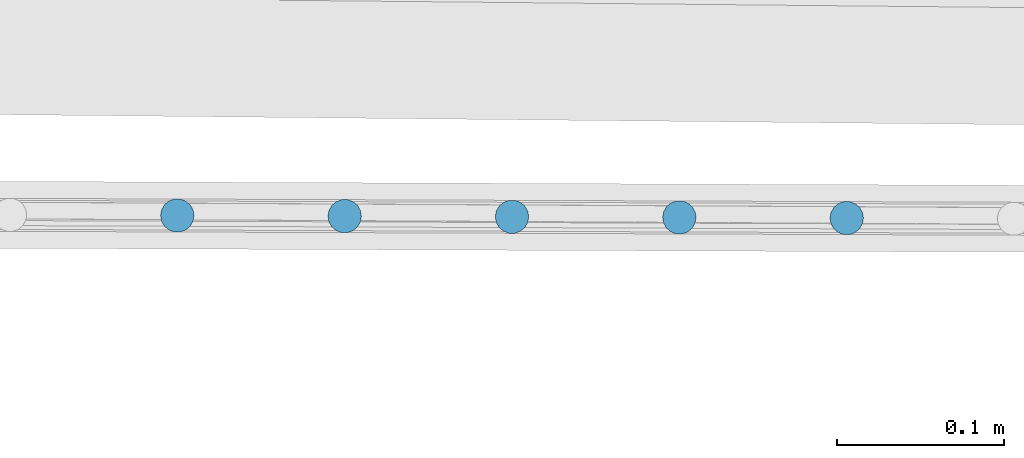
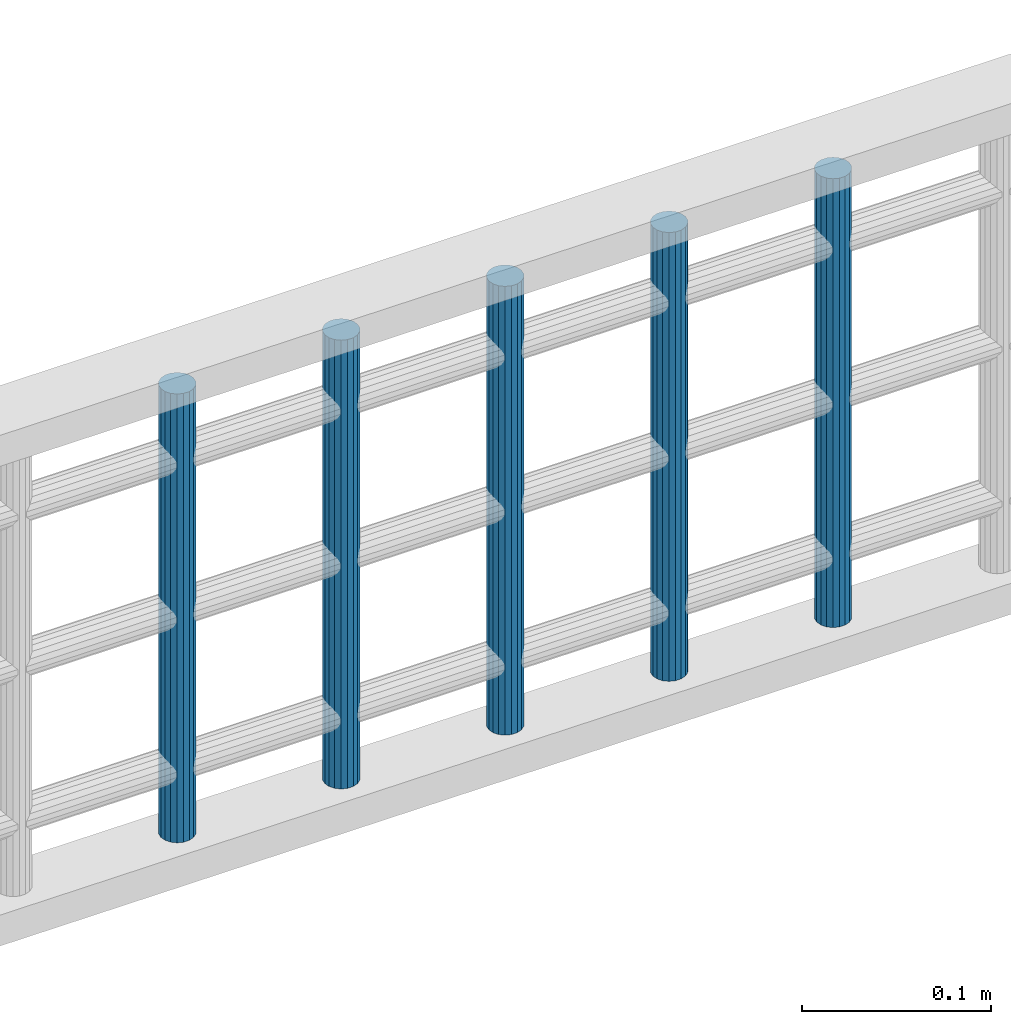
# One storey, part 19 of 39: 5 members, 1 element without a shape of its own.
"""IFC2X3 building model written with IfcOpenShell, lengths in centimetres."""

from ifc_helpers import new_model, entity, si_unit, converted_unit, direction, frame, origin, origin_with_axes, place, context, subcontext, project, spatial, faceted_brep, material, type_object, element, aggregate, save


model = new_model("IFC2X3")

# Units and contexts
model_context = context("Model", 3, precision=0.0001, world=origin(), true_north=direction((0.225632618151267, 0.974212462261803, 0.0)))
body_context = subcontext(model_context, "Body", "Model", "MODEL_VIEW")
ifc_project = project(units=[si_unit("LENGTHUNIT", "METRE", prefix="CENTI"), si_unit("AREAUNIT", "SQUARE_METRE", prefix="CENTI"), si_unit("VOLUMEUNIT", "CUBIC_METRE", prefix="CENTI"), converted_unit("PLANEANGLEUNIT", "DEGREE", entity("IfcRatioMeasure", 0.0174532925), si_unit("PLANEANGLEUNIT", "RADIAN"), dimensions=[0, 0, 0, 0, 0, 0, 0])], contexts=[model_context])

# Site, building, storey
site_placement = place(None, origin_with_axes())
site = spatial("IfcSite", under=ifc_project, at=site_placement, Name="Default Site", CompositionType="ELEMENT")
building_placement = place(site_placement, origin_with_axes())
building = spatial("IfcBuilding", under=site, at=building_placement, Name="Default Building", CompositionType="ELEMENT")
storey_placement = place(building_placement, frame((0.0, 0.0, 1088.91037418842), z_axis=(0.0, 0.0, 1.0), x_axis=(1.0, 0.0, 0.0)))
storey = spatial("IfcBuildingStorey", under=building, at=storey_placement, Name="Mezzanine", CompositionType="ELEMENT", Elevation=1088.91037418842)

# Assembly, members
building_element_proxy_type = type_object("IfcBuildingElementProxyType", Name="Type Object", PredefinedType="NOTDEFINED")
assembly_placement = place(storey_placement, frame((1135.88365779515, -230.612962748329, -220.0), z_axis=(0.0, 0.0, 1.0), x_axis=(0.999992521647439, -0.00386738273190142, 0.0)))
assembly = element("IfcElementAssembly", 1, at=assembly_placement, inside=storey, type_object=building_element_proxy_type, Name="Panneau 1519653", ObjectType="Precast panel", PredefinedType="USERDEFINED")
ifc_material = material(Name="Blanc trafic")
member_1_placement = place(assembly_placement, frame((88.439691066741, 0.342020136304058, 31.0000002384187), z_axis=(0.0, 0.0, 0.999999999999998), x_axis=(0.499995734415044, -0.866027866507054, 0.0)))
member_1 = element("IfcMember", 2, at=member_1_placement, material=ifc_material, Name="4294967240", context=body_context, shape_type="Brep", body=[
    faceted_brep([(4.44089209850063e-14, 9.99200722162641e-14, 1.83186799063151e-13), (-0.347295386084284, 1.4432899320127e-13, 1.83186799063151e-13), (-0.673647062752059, -0.11878472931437, 1.83186799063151e-13), (-0.939691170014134, -0.342025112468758, 1.83186799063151e-13), (-1.11333590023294, -0.642790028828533, 1.83186799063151e-13), (-1.17364232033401, -0.984811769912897, 1.83186799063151e-13), (-1.11333370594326, -1.3268323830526, 1.83186799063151e-13), (-0.939683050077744, -1.62759729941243, 1.83186799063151e-13), (-0.673637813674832, -1.85083429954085, 1.83186799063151e-13), (-0.347285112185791, -1.96961451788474, 1.83186799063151e-13), (1.02738985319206e-05, -1.9696145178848, 1.83186799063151e-13), (0.326361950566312, -1.85082978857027, 1.83186799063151e-13), (0.592406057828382, -1.62758940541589, 1.83186799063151e-13), (0.76605078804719, -1.32682448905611, 1.83186799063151e-13), (0.826357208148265, -0.984802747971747, 1.83186799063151e-13), (0.766048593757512, -0.642782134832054, 1.83186799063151e-13), (0.592397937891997, -0.342017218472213, 1.83186799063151e-13), (0.32635270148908, -0.118780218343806, 1.83186799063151e-13), (0.32635270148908, -0.118780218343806, -29.0000002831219), (0.592397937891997, -0.342017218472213, -29.0000002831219), (0.766048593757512, -0.642782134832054, -29.0000002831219), (0.826357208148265, -0.984802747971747, -29.0000002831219), (0.76605078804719, -1.32682448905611, -29.0000002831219), (0.592406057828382, -1.62758940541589, -29.0000002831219), (0.326361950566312, -1.85082978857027, -29.0000002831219), (1.02738985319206e-05, -1.9696145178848, -29.0000002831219), (-0.347285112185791, -1.96961451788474, -29.0000002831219), (-0.673637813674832, -1.85083429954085, -29.0000002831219), (-0.939683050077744, -1.62759729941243, -29.0000002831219), (-1.11333370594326, -1.3268323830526, -29.0000002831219), (-1.17364232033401, -0.984811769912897, -29.0000002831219), (-1.11333590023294, -0.642790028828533, -29.0000002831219), (-0.939691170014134, -0.342025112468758, -29.0000002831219), (-0.673647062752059, -0.11878472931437, -29.0000002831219), (-0.347295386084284, 1.4432899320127e-13, -29.0000002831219), (4.44089209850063e-14, 9.99200722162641e-14, -29.0000002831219), (0.592398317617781, -0.342016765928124, 1.83186799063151e-13), (0.592398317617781, -0.342016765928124, -29.0000002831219), (0.766047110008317, -0.64278299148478, 1.83186799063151e-13), (0.766047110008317, -0.64278299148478, -29.0000002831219), (0.826357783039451, -0.984802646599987, 1.83186799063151e-13), (0.826357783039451, -0.984802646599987, -29.0000002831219), (0.76605127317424, -1.32682457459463, 1.83186799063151e-13), (0.76605127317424, -1.32682457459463, -29.0000002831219), (0.592406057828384, -1.62758940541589, 1.83186799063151e-13), (0.592406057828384, -1.62758940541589, -29.0000002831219), (0.326361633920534, -1.8508294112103, 1.83186799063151e-13), (0.326361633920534, -1.8508294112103, -29.0000002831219), (1.00742380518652e-05, -1.96961396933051, 1.83186799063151e-13), (1.00742380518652e-05, -1.96961396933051, -29.0000002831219), (-0.347285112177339, -1.96961623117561, 1.83186799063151e-13), (-0.347285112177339, -1.96961623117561, -29.0000002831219), (-0.673637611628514, -1.85083374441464, 1.83186799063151e-13), (-0.673637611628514, -1.85083374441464, -29.0000002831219), (-0.939683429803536, -1.62759775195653, 1.83186799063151e-13), (-0.939683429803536, -1.62759775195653, -29.0000002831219), (-1.11333222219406, -1.32683152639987, 1.83186799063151e-13), (-1.11333222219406, -1.32683152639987, -29.0000002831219), (-1.1736428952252, -0.984811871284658, 1.83186799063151e-13), (-1.1736428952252, -0.984811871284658, -29.0000002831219), (-1.11333638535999, -0.642789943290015, 1.83186799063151e-13), (-1.11333638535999, -0.642789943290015, -29.0000002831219), (-0.939691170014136, -0.342025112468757, 1.83186799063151e-13), (-0.939691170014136, -0.342025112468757, -29.0000002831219), (-0.673646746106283, -0.118785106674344, 1.83186799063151e-13), (-0.673646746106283, -0.118785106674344, -29.0000002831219), (-0.347295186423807, -5.48554140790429e-07, 1.83186799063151e-13), (-0.347295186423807, -5.48554140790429e-07, -29.0000002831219), (-8.40766274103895e-12, 1.7132909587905e-06, 1.83186799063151e-13), (-8.40766274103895e-12, 1.7132909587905e-06, -29.0000002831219), (0.326352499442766, -0.118780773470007, 1.83186799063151e-13), (0.326352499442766, -0.118780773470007, -29.0000002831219)], [[[0, 1, 2, 3, 4, 5, 6, 7, 8, 9, 10, 11, 12, 13, 14, 15, 16, 17]], [[18, 19, 20, 21, 22, 23, 24, 25, 26, 27, 28, 29, 30, 31, 32, 33, 34, 35]], [[17, 36, 37, 18]], [[16, 38, 39, 19]], [[15, 40, 41, 20]], [[14, 42, 43, 21]], [[13, 44, 45, 22]], [[12, 46, 47, 23]], [[11, 48, 49, 24]], [[10, 50, 51, 25]], [[9, 52, 53, 26]], [[8, 54, 55, 27]], [[7, 56, 57, 28]], [[6, 58, 59, 29]], [[5, 60, 61, 30]], [[4, 62, 63, 31]], [[3, 64, 65, 32]], [[2, 66, 67, 33]], [[1, 68, 69, 34]], [[0, 70, 71, 35]]]),
])
member_2_placement = place(assembly_placement, frame((98.4396934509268, 0.342020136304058, 31.0000002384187), z_axis=(0.0, 0.0, 0.999999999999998), x_axis=(0.499995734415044, -0.866027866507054, 0.0)))
member_2 = element("IfcMember", 3, at=member_2_placement, material=ifc_material, Name="4294967239", context=body_context, shape_type="Brep", body=[
    faceted_brep([(-3.33066907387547e-14, -1.33226762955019e-13, 1.83186799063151e-13), (-0.347295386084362, -7.7715611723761e-14, 1.83186799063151e-13), (-0.673647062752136, -0.118784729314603, 1.83186799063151e-13), (-0.939691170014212, -0.34202511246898, 1.83186799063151e-13), (-1.11333888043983, -0.642795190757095, 1.83186799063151e-13), (-1.1736423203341, -0.984811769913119, 1.83186799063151e-13), (-1.11333370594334, -1.32683238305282, 1.83186799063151e-13), (-0.939686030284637, -1.62760246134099, 1.83186799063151e-13), (-0.673640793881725, -1.85083946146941, 1.83186799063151e-13), (-0.347288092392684, -1.96961967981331, 1.83186799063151e-13), (1.0273898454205e-05, -1.96961451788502, 1.83186799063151e-13), (0.326361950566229, -1.8508297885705, 1.83186799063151e-13), (0.592403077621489, -1.62759456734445, 1.83186799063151e-13), (0.766050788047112, -1.32682448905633, 1.83186799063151e-13), (0.826357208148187, -0.98480274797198, 1.83186799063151e-13), (0.766048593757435, -0.642782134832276, 1.83186799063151e-13), (0.59239793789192, -0.342017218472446, 1.83186799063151e-13), (0.326352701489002, -0.118780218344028, 1.83186799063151e-13), (0.326352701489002, -0.118780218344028, -29.0000002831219), (0.59239793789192, -0.342017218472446, -29.0000002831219), (0.766048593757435, -0.642782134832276, -29.0000002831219), (0.826357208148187, -0.98480274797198, -29.0000002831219), (0.766050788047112, -1.32682448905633, -29.0000002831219), (0.592403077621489, -1.62759456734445, -29.0000002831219), (0.326361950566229, -1.8508297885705, -29.0000002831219), (1.0273898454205e-05, -1.96961451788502, -29.0000002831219), (-0.347288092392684, -1.96961967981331, -29.0000002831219), (-0.673640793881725, -1.85083946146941, -29.0000002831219), (-0.939686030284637, -1.62760246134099, -29.0000002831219), (-1.11333370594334, -1.32683238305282, -29.0000002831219), (-1.1736423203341, -0.984811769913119, -29.0000002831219), (-1.11333888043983, -0.642795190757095, -29.0000002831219), (-0.939691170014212, -0.34202511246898, -29.0000002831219), (-0.673647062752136, -0.118784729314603, -29.0000002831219), (-0.347295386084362, -7.7715611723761e-14, -29.0000002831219), (-3.33066907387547e-14, -1.33226762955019e-13, -29.0000002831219), (0.592398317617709, -0.34201676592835, 1.83186799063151e-13), (0.592398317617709, -0.34201676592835, -29.0000002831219), (0.766047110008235, -0.642782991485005, 1.83186799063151e-13), (0.766047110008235, -0.642782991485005, -29.0000002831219), (0.826357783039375, -0.984802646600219, 1.83186799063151e-13), (0.826357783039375, -0.984802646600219, -29.0000002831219), (0.766051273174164, -1.32682457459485, 1.83186799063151e-13), (0.766051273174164, -1.32682457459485, -29.0000002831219), (0.59240307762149, -1.62759456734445, 1.83186799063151e-13), (0.59240307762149, -1.62759456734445, -29.0000002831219), (0.326362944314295, -1.85083097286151, 1.83186799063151e-13), (0.326362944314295, -1.85083097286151, -29.0000002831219), (1.00742379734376e-05, -1.96961396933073, 1.83186799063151e-13), (1.00742379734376e-05, -1.96961396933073, -29.0000002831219), (-0.347288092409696, -1.96961623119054, 1.83186799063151e-13), (-0.347288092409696, -1.96961623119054, -29.0000002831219), (-0.673640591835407, -1.8508389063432, 1.83186799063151e-13), (-0.673640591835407, -1.8508389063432, -29.0000002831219), (-0.939686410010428, -1.62760291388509, 1.83186799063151e-13), (-0.939686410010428, -1.62760291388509, -29.0000002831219), (-1.11333669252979, -1.32683410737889, 1.83186799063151e-13), (-1.11333669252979, -1.32683410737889, -29.0000002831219), (-1.17364289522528, -0.984811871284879, 1.83186799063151e-13), (-1.17364289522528, -0.984811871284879, -29.0000002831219), (-1.11333735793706, -0.642795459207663, 1.83186799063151e-13), (-1.11333735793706, -0.642795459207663, -29.0000002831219), (-0.673646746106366, -0.118785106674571, 1.83186799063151e-13), (-0.673646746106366, -0.118785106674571, -29.0000002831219), (-0.347295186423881, -5.48554372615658e-07, 1.83186799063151e-13), (-0.347295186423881, -5.48554372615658e-07, -29.0000002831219), (-8.48537840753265e-12, 1.7132907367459e-06, 1.83186799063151e-13), (-8.48537840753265e-12, 1.7132907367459e-06, -29.0000002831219), (0.326352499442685, -0.118780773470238, 1.83186799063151e-13), (0.326352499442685, -0.118780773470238, -29.0000002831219)], [[[0, 1, 2, 3, 4, 5, 6, 7, 8, 9, 10, 11, 12, 13, 14, 15, 16, 17]], [[18, 19, 20, 21, 22, 23, 24, 25, 26, 27, 28, 29, 30, 31, 32, 33, 34, 35]], [[17, 36, 37, 18]], [[16, 38, 39, 19]], [[15, 40, 41, 20]], [[14, 42, 43, 21]], [[13, 44, 45, 22]], [[12, 46, 47, 23]], [[11, 48, 49, 24]], [[10, 50, 51, 25]], [[9, 52, 53, 26]], [[8, 54, 55, 27]], [[7, 56, 57, 28]], [[6, 58, 59, 29]], [[5, 60, 61, 30]], [[4, 3, 32, 31]], [[3, 62, 63, 32]], [[2, 64, 65, 33]], [[1, 66, 67, 34]], [[0, 68, 69, 35]]]),
])
member_3_placement = place(assembly_placement, frame((108.439695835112, 0.342020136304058, 31.0000002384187), z_axis=(0.0, 0.0, 0.999999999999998), x_axis=(0.500008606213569, -0.8660204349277, 0.0)))
member_3 = element("IfcMember", 4, at=member_3_placement, material=ifc_material, Name="4294967238", context=body_context, shape_type="Brep", body=[
    faceted_brep([(6.66133814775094e-14, 0.0, 5.55111512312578e-15), (-0.34729836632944, 5.55111512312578e-14, 5.55111512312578e-15), (-0.673648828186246, -0.118774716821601, 5.55111512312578e-15), (-0.939699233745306, -0.342016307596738, 5.55111512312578e-15), (-1.11334843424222, -0.64277864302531, 5.55111512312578e-15), (-1.17365695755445, -0.984794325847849, 5.55111512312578e-15), (-1.11335640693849, -1.32682099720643, 5.55111512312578e-15), (-0.939713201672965, -1.62759365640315, 5.55111512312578e-15), (-0.673665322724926, -1.85082428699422, 5.55111512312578e-15), (-0.347320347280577, -1.96961967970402, 5.55111512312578e-15), (-2.19809510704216e-05, -1.96961967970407, 5.55111512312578e-15), (0.326334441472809, -1.85083463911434, 5.55111512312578e-15), (0.592378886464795, -1.62760337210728, 5.55111512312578e-15), (0.766028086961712, -1.32684103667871, 5.55111512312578e-15), (0.82634257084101, -0.984815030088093, 5.55111512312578e-15), (0.766036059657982, -0.642798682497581, 5.55111512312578e-15), (0.592392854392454, -0.342026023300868, 5.55111512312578e-15), (0.326350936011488, -0.118785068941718, 5.55111512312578e-15), (0.326350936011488, -0.118785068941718, -29.0000002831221), (0.592392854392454, -0.342026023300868, -29.0000002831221), (0.766036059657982, -0.642798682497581, -29.0000002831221), (0.82634257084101, -0.984815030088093, -29.0000002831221), (0.766028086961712, -1.32684103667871, -29.0000002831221), (0.592378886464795, -1.62760337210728, -29.0000002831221), (0.326334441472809, -1.85083463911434, -29.0000002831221), (-2.19809510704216e-05, -1.96961967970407, -29.0000002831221), (-0.347320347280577, -1.96961967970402, -29.0000002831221), (-0.673665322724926, -1.85082428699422, -29.0000002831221), (-0.939713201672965, -1.62759365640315, -29.0000002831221), (-1.11335640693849, -1.32682099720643, -29.0000002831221), (-1.17365695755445, -0.984794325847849, -29.0000002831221), (-1.11334843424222, -0.64277864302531, -29.0000002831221), (-0.939699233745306, -0.342016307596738, -29.0000002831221), (-0.673648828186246, -0.118774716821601, -29.0000002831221), (-0.34729836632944, 5.55111512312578e-14, -29.0000002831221), (6.66133814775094e-14, 0.0, -29.0000002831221), (0.592393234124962, -0.342025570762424, 5.55111512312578e-15), (0.592393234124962, -0.342025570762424, -29.0000002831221), (0.766039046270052, -0.642796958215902, 5.55111512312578e-15), (0.766039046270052, -0.642796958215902, -29.0000002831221), (0.826339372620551, -0.984815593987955, 5.55111512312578e-15), (0.826339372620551, -0.984815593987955, -29.0000002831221), (0.766030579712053, -1.32684147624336, 5.55111512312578e-15), (0.766030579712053, -1.32684147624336, -29.0000002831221), (0.592378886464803, -1.62760337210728, 5.55111512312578e-15), (0.592378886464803, -1.62760337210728, -29.0000002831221), (0.326335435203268, -1.85083582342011, 5.55111512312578e-15), (0.326335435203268, -1.85083582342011, -29.0000002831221), (-2.34909536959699e-05, -1.96961553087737, 5.55111512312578e-15), (-2.34909536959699e-05, -1.96961553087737, -29.0000002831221), (-0.347320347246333, -1.96961623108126, 5.55111512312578e-15), (-0.347320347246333, -1.96961623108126, -29.0000002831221), (-0.673669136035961, -1.8508347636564, 5.55111512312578e-15), (-0.673669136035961, -1.8508347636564, -29.0000002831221), (-0.939706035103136, -1.62758511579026, 5.55111512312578e-15), (-0.939706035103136, -1.62758511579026, -29.0000002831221), (-1.11335939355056, -1.32682272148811, 5.55111512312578e-15), (-1.11335939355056, -1.32682272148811, -29.0000002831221), (-1.17366130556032, -0.984795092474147, 5.55111512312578e-15), (-1.17366130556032, -0.984795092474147, -29.0000002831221), (-1.11334691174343, -0.642778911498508, 5.55111512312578e-15), (-1.11334691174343, -0.642778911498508, -29.0000002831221), (-0.939699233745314, -0.342016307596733, 5.55111512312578e-15), (-0.939699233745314, -0.342016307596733, -29.0000002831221), (-0.673647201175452, -0.118776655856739, 5.55111512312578e-15), (-0.673647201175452, -0.118776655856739, -29.0000002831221), (-0.34729947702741, 3.05171222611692e-06, 5.55111512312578e-15), (-0.34729947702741, 3.05171222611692e-06, -29.0000002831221), (-3.41777144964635e-11, -3.44862275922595e-06, 5.55111512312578e-15), (-3.41777144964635e-11, -3.44862275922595e-06, -29.0000002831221), (0.326350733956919, -0.118785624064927, 5.55111512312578e-15), (0.326350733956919, -0.118785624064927, -29.0000002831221)], [[[0, 1, 2, 3, 4, 5, 6, 7, 8, 9, 10, 11, 12, 13, 14, 15, 16, 17]], [[18, 19, 20, 21, 22, 23, 24, 25, 26, 27, 28, 29, 30, 31, 32, 33, 34, 35]], [[17, 36, 37, 18]], [[16, 38, 39, 19]], [[15, 40, 41, 20]], [[14, 42, 43, 21]], [[13, 44, 45, 22]], [[12, 46, 47, 23]], [[11, 48, 49, 24]], [[10, 50, 51, 25]], [[9, 52, 53, 26]], [[8, 54, 55, 27]], [[7, 56, 57, 28]], [[6, 58, 59, 29]], [[5, 60, 61, 30]], [[4, 62, 63, 31]], [[3, 64, 65, 32]], [[2, 66, 67, 33]], [[1, 68, 69, 34]], [[0, 70, 71, 35]]]),
])
member_4_placement = place(assembly_placement, frame((118.439698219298, 0.342020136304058, 31.0000002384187), z_axis=(0.0, 0.0, 0.999999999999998), x_axis=(0.500008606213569, -0.8660204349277, 0.0)))
member_4 = element("IfcMember", 5, at=member_4_placement, material=ifc_material, Name="4294967237", context=body_context, shape_type="Brep", body=[
    faceted_brep([(1.33226762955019e-13, 1.55431223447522e-13, 5.55111512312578e-15), (-0.347298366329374, 1.99840144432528e-13, 5.55111512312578e-15), (-0.673654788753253, -0.118785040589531, 5.55111512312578e-15), (-0.93969923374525, -0.342016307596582, 5.55111512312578e-15), (-1.11334843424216, -0.642778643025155, 5.55111512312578e-15), (-1.17366291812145, -0.984804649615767, 5.55111512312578e-15), (-1.11335640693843, -1.32682099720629, 5.55111512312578e-15), (-0.939713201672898, -1.62759365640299, 5.55111512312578e-15), (-0.673671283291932, -1.85083461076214, 5.55111512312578e-15), (-0.347320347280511, -1.96961967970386, 5.55111512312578e-15), (-2.19809510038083e-05, -1.96961967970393, 5.55111512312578e-15), (0.326328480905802, -1.85084496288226, 5.55111512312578e-15), (0.592378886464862, -1.62760337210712, 5.55111512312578e-15), (0.766028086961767, -1.32684103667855, 5.55111512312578e-15), (0.826336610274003, -0.984825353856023, 5.55111512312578e-15), (0.766036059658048, -0.642798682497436, 5.55111512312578e-15), (0.592392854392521, -0.342026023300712, 5.55111512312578e-15), (0.326344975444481, -0.118795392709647, 5.55111512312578e-15), (0.326344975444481, -0.118795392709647, -29.0000002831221), (0.592392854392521, -0.342026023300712, -29.0000002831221), (0.766036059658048, -0.642798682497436, -29.0000002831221), (0.826336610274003, -0.984825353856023, -29.0000002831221), (0.766028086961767, -1.32684103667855, -29.0000002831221), (0.592378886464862, -1.62760337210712, -29.0000002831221), (0.326328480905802, -1.85084496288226, -29.0000002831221), (-2.19809510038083e-05, -1.96961967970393, -29.0000002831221), (-0.347320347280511, -1.96961967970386, -29.0000002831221), (-0.673671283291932, -1.85083461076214, -29.0000002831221), (-0.939713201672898, -1.62759365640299, -29.0000002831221), (-1.11335640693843, -1.32682099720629, -29.0000002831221), (-1.17366291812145, -0.984804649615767, -29.0000002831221), (-1.11334843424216, -0.642778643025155, -29.0000002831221), (-0.93969923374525, -0.342016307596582, -29.0000002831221), (-0.673654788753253, -0.118785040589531, -29.0000002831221), (-0.347298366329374, 1.99840144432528e-13, -29.0000002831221), (1.33226762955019e-13, 1.55431223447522e-13, -29.0000002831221), (0.592385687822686, -0.342034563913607, 5.55111512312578e-15), (0.592385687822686, -0.342034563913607, -29.0000002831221), (0.766039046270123, -0.642796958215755, 5.55111512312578e-15), (0.766039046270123, -0.642796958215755, -29.0000002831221), (0.826340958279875, -0.984824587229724, 5.55111512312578e-15), (0.826340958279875, -0.984824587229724, -29.0000002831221), (0.766026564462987, -1.32684076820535, 5.55111512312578e-15), (0.766026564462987, -1.32684076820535, -29.0000002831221), (0.592378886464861, -1.62760337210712, 5.55111512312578e-15), (0.592378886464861, -1.62760337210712, -29.0000002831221), (0.326326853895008, -1.85084302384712, 5.55111512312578e-15), (0.326326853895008, -1.85084302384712, -29.0000002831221), (-2.08702530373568e-05, -1.96962273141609, 5.55111512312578e-15), (-2.08702530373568e-05, -1.96962273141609, -29.0000002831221), (-0.347320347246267, -1.96961623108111, 5.55111512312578e-15), (-0.347320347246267, -1.96961623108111, -29.0000002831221), (-0.673671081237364, -1.85083405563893, 5.55111512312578e-15), (-0.673671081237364, -1.85083405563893, -29.0000002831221), (-0.939713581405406, -1.62759410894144, 5.55111512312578e-15), (-0.939713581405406, -1.62759410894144, -29.0000002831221), (-1.11335939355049, -1.32682272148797, 5.55111512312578e-15), (-1.11335939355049, -1.32682272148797, -29.0000002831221), (-1.173659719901, -0.984804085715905, 5.55111512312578e-15), (-1.173659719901, -0.984804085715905, -29.0000002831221), (-1.1133509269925, -0.642778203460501, 5.55111512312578e-15), (-1.1133509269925, -0.642778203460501, -29.0000002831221), (-0.673655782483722, -0.118783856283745, 5.55111512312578e-15), (-0.673655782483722, -0.118783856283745, -29.0000002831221), (-0.347296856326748, -4.14882649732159e-06, 5.55111512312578e-15), (-0.347296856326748, -4.14882649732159e-06, -29.0000002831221), (-3.41111012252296e-11, -3.44862261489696e-06, 5.55111512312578e-15), (-3.41111012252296e-11, -3.44862261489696e-06, -29.0000002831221), (0.32634878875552, -0.118784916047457, 5.55111512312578e-15), (0.32634878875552, -0.118784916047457, -29.0000002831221)], [[[0, 1, 2, 3, 4, 5, 6, 7, 8, 9, 10, 11, 12, 13, 14, 15, 16, 17]], [[18, 19, 20, 21, 22, 23, 24, 25, 26, 27, 28, 29, 30, 31, 32, 33, 34, 35]], [[17, 36, 37, 18]], [[16, 38, 39, 19]], [[15, 40, 41, 20]], [[14, 42, 43, 21]], [[13, 44, 45, 22]], [[12, 46, 47, 23]], [[11, 48, 49, 24]], [[10, 50, 51, 25]], [[9, 52, 53, 26]], [[8, 54, 55, 27]], [[7, 56, 57, 28]], [[6, 58, 59, 29]], [[5, 60, 61, 30]], [[4, 3, 32, 31]], [[3, 62, 63, 32]], [[2, 64, 65, 33]], [[1, 66, 67, 34]], [[0, 68, 69, 35]]]),
])
member_5_placement = place(assembly_placement, frame((128.439688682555, 0.342020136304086, 31.0000002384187), z_axis=(0.0, 0.0, 0.999999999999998), x_axis=(0.499982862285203, -0.8660352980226, 0.0)))
member_5 = element("IfcMember", 6, at=member_5_placement, material=ifc_material, Name="4294967236", context=body_context, shape_type="Brep", body=[
    faceted_brep([(1.22124532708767e-13, 1.55431223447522e-13, -5.55111512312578e-15), (-0.347292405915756, 2.44249065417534e-13, -5.55111512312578e-15), (-0.673645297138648, -0.118794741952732, -5.55111512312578e-15), (-0.939683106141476, -0.342033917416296, -5.55111512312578e-15), (-1.11332336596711, -0.642801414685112, -5.55111512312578e-15), (-1.17362768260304, -0.984829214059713, -5.55111512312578e-15), (-1.11331100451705, -1.32684376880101, -5.55111512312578e-15), (-0.939658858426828, -1.62761126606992, -5.55111512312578e-15), (-0.673610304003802, -1.85084431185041, -5.55111512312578e-15), (-0.347255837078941, -1.96961967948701, -5.55111512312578e-15), (4.25290971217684e-05, -1.96960935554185, -5.55111512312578e-15), (0.326389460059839, -1.85082493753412, -5.55111512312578e-15), (0.592433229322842, -1.62757543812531, -5.55111512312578e-15), (0.766073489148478, -1.32680794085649, -5.55111512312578e-15), (0.826371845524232, -0.984790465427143, -5.55111512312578e-15), (0.766061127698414, -0.64276558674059, -5.55111512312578e-15), (0.592403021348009, -0.342008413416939, -5.55111512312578e-15), (0.326354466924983, -0.118775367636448, -5.55111512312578e-15), (0.326354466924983, -0.118775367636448, -29.0000002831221), (0.592403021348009, -0.342008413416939, -29.0000002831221), (0.766061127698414, -0.64276558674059, -29.0000002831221), (0.826371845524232, -0.984790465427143, -29.0000002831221), (0.766073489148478, -1.32680794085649, -29.0000002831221), (0.592433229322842, -1.62757543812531, -29.0000002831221), (0.326389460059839, -1.85082493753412, -29.0000002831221), (4.25290971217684e-05, -1.96960935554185, -29.0000002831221), (-0.347255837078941, -1.96961967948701, -29.0000002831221), (-0.673610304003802, -1.85084431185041, -29.0000002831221), (-0.939658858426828, -1.62761126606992, -29.0000002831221), (-1.11331100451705, -1.32684376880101, -29.0000002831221), (-1.17362768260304, -0.984829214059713, -29.0000002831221), (-1.11332336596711, -0.642801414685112, -29.0000002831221), (-0.939683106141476, -0.342033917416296, -29.0000002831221), (-0.673645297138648, -0.118794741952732, -29.0000002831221), (-0.347292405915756, 2.44249065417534e-13, -29.0000002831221), (1.22124532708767e-13, 1.55431223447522e-13, -29.0000002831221), (0.592403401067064, -0.342007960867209, -5.55111512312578e-15), (0.592403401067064, -0.342007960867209, -29.0000002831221), (0.766055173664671, -0.642769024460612, -5.55111512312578e-15), (0.766055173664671, -0.642769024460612, -29.0000002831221), (0.826376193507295, -0.984789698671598, -5.55111512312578e-15), (0.826376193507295, -0.984789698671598, -29.0000002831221), (0.766071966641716, -1.32680767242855, -5.55111512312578e-15), (0.766071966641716, -1.32680767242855, -29.0000002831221), (0.592433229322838, -1.6275754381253, -5.55111512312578e-15), (0.592433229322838, -1.6275754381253, -29.0000002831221), (0.326387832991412, -1.85082299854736, -5.55111512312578e-15), (0.326387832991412, -1.85082299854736, -29.0000002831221), (4.363988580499e-05, -1.96961240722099, -5.55111512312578e-15), (4.363988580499e-05, -1.96961240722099, -29.0000002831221), (-0.347255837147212, -1.96961623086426, -5.55111512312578e-15), (-0.347255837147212, -1.96961623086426, -29.0000002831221), (-0.673610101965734, -1.85084375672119, -5.55111512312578e-15), (-0.673610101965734, -1.85084375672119, -29.0000002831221), (-0.939659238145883, -1.62761171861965, -5.55111512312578e-15), (-0.939659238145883, -1.62761171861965, -29.0000002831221), (-1.11331399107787, -1.32684549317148, -5.55111512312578e-15), (-1.11331399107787, -1.32684549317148, -29.0000002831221), (-1.17362448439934, -0.984828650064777, -5.55111512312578e-15), (-1.17362448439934, -0.984828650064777, -29.0000002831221), (-1.11332585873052, -0.642800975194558, -5.55111512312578e-15), (-1.11332585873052, -0.642800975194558, -29.0000002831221), (-0.939683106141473, -0.342033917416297, -5.55111512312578e-15), (-0.939683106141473, -0.342033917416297, -29.0000002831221), (-0.67364629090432, -0.118793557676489, -5.55111512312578e-15), (-0.67364629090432, -0.118793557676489, -29.0000002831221), (-0.347290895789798, -4.14878157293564e-06, -5.55111512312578e-15), (-0.347290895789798, -4.14878157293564e-06, -29.0000002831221), (-1.35983461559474e-10, 6.87520466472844e-06, -5.55111512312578e-15), (-1.35983461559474e-10, 6.87520466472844e-06, -29.0000002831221), (0.326354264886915, -0.118775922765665, -5.55111512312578e-15), (0.326354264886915, -0.118775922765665, -29.0000002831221)], [[[0, 1, 2, 3, 4, 5, 6, 7, 8, 9, 10, 11, 12, 13, 14, 15, 16, 17]], [[18, 19, 20, 21, 22, 23, 24, 25, 26, 27, 28, 29, 30, 31, 32, 33, 34, 35]], [[17, 36, 37, 18]], [[16, 38, 39, 19]], [[15, 40, 41, 20]], [[14, 42, 43, 21]], [[13, 44, 45, 22]], [[12, 46, 47, 23]], [[11, 48, 49, 24]], [[10, 50, 51, 25]], [[9, 52, 53, 26]], [[8, 54, 55, 27]], [[7, 56, 57, 28]], [[6, 58, 59, 29]], [[5, 60, 61, 30]], [[4, 62, 63, 31]], [[3, 64, 65, 32]], [[2, 66, 67, 33]], [[1, 68, 69, 34]], [[0, 70, 71, 35]]]),
])
aggregate(assembly, [member_1, member_2, member_3, member_4, member_5])

save(model, "model.ifc")
